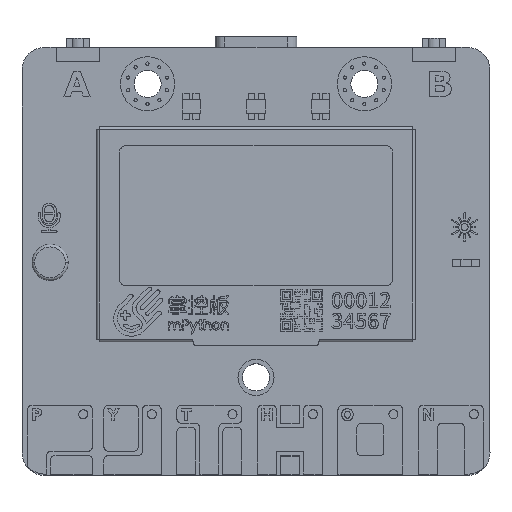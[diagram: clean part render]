
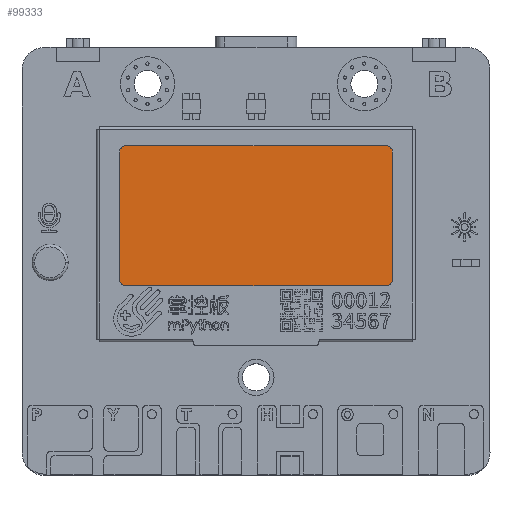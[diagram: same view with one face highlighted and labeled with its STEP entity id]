
A CAD part, top view. The second image highlights one B-rep face of the part: STEP entity #99333.
In plain terms, the highlighted planar face has unit normal (0, 0, 1).
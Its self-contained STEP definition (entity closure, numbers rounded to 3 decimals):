
#42234=DIRECTION('',(0.,-1.,0.));
#42235=VECTOR('',#42234,14.1);
#42236=CARTESIAN_POINT('',(-15.1,12.094,2.65));
#42237=LINE('',#42236,#42235);
#42241=CARTESIAN_POINT('',(-14.4,12.094,2.65));
#42242=DIRECTION('',(0.,0.,-1.));
#42243=DIRECTION('',(-1.,0.,0.));
#42244=AXIS2_PLACEMENT_3D('',#42241,#42242,#42243);
#42249=DIRECTION('',(-1.,0.,0.));
#42250=VECTOR('',#42249,28.801);
#42251=CARTESIAN_POINT('',(14.4,12.794,2.65));
#42252=LINE('',#42251,#42250);
#42256=CARTESIAN_POINT('',(14.4,12.094,2.65));
#42257=DIRECTION('',(0.,0.,-1.));
#42258=DIRECTION('',(0.,1.,0.));
#42259=AXIS2_PLACEMENT_3D('',#42256,#42257,#42258);
#42264=DIRECTION('',(0.,1.,0.));
#42265=VECTOR('',#42264,14.1);
#42266=CARTESIAN_POINT('',(15.1,-2.006,2.65));
#42267=LINE('',#42266,#42265);
#42271=CARTESIAN_POINT('',(14.4,-2.006,2.65));
#42272=DIRECTION('',(0.,0.,-1.));
#42273=DIRECTION('',(1.,0.,0.));
#42274=AXIS2_PLACEMENT_3D('',#42271,#42272,#42273);
#42279=DIRECTION('',(1.,0.,0.));
#42280=VECTOR('',#42279,28.801);
#42281=CARTESIAN_POINT('',(-14.4,-2.706,2.65));
#42282=LINE('',#42281,#42280);
#42286=CARTESIAN_POINT('',(-14.4,-2.006,2.65));
#42287=DIRECTION('',(0.,0.,-1.));
#42288=DIRECTION('',(0.,-1.,0.));
#42289=AXIS2_PLACEMENT_3D('',#42286,#42287,#42288);
#59837=CARTESIAN_POINT('',(-15.1,12.094,2.65));
#59838=CARTESIAN_POINT('',(-15.1,-2.006,2.65));
#59839=VERTEX_POINT('',#59837);
#59840=VERTEX_POINT('',#59838);
#59841=CARTESIAN_POINT('',(-14.4,12.794,2.65));
#59842=VERTEX_POINT('',#59841);
#59843=CARTESIAN_POINT('',(14.4,12.794,2.65));
#59844=VERTEX_POINT('',#59843);
#59845=CARTESIAN_POINT('',(15.1,12.094,2.65));
#59846=VERTEX_POINT('',#59845);
#59847=CARTESIAN_POINT('',(15.1,-2.006,2.65));
#59848=VERTEX_POINT('',#59847);
#59849=CARTESIAN_POINT('',(14.4,-2.706,2.65));
#59850=VERTEX_POINT('',#59849);
#59851=CARTESIAN_POINT('',(-14.4,-2.706,2.65));
#59852=VERTEX_POINT('',#59851);
#99311=CARTESIAN_POINT('',(0.,0.,2.65));
#99312=DIRECTION('',(0.,0.,1.));
#99313=DIRECTION('',(1.,0.,0.));
#99314=AXIS2_PLACEMENT_3D('',#99311,#99312,#99313);
#99315=PLANE('',#99314);
#99317=ORIENTED_EDGE('',*,*,#99316,.F.);
#99319=ORIENTED_EDGE('',*,*,#99318,.T.);
#99320=ORIENTED_EDGE('',*,*,#99289,.F.);
#99322=ORIENTED_EDGE('',*,*,#99321,.T.);
#99324=ORIENTED_EDGE('',*,*,#99323,.F.);
#99326=ORIENTED_EDGE('',*,*,#99325,.T.);
#99328=ORIENTED_EDGE('',*,*,#99327,.F.);
#99330=ORIENTED_EDGE('',*,*,#99329,.T.);
#99331=EDGE_LOOP('',(#99317,#99319,#99320,#99322,#99324,#99326,#99328,#99330));
#99332=FACE_OUTER_BOUND('',#99331,.F.);
#42245=CIRCLE('',#42244,0.7);
#42260=CIRCLE('',#42259,0.7);
#42275=CIRCLE('',#42274,0.7);
#42290=CIRCLE('',#42289,0.7);
#99289=EDGE_CURVE('',#59844,#59842,#42252,.T.);
#99316=EDGE_CURVE('',#59839,#59840,#42237,.T.);
#99318=EDGE_CURVE('',#59839,#59842,#42245,.T.);
#99321=EDGE_CURVE('',#59844,#59846,#42260,.T.);
#99323=EDGE_CURVE('',#59848,#59846,#42267,.T.);
#99325=EDGE_CURVE('',#59848,#59850,#42275,.T.);
#99327=EDGE_CURVE('',#59852,#59850,#42282,.T.);
#99329=EDGE_CURVE('',#59852,#59840,#42290,.T.);
#99333=ADVANCED_FACE('',(#99332),#99315,.T.);
